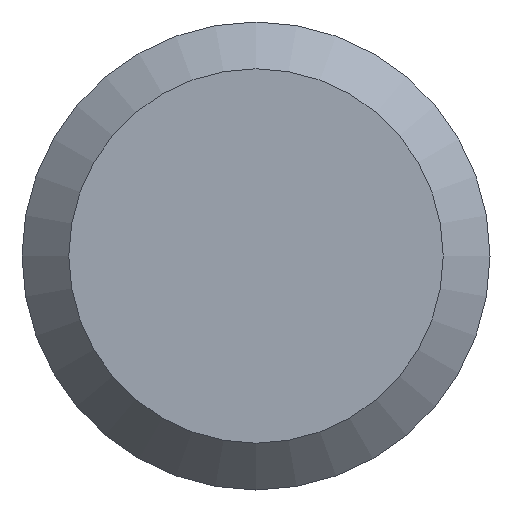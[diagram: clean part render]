
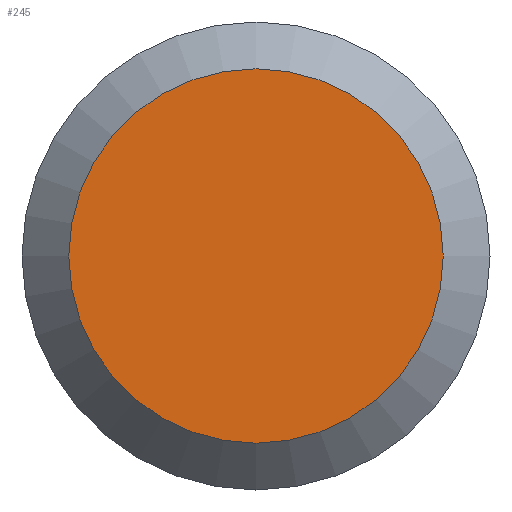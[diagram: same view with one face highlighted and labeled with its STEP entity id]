
A CAD part, left-side view. The second image highlights one B-rep face of the part: STEP entity #245.
In plain terms, the highlighted planar face has unit normal (-1, 0, 0).
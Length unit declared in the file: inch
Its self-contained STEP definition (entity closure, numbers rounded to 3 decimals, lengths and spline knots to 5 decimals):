
#16 = EDGE_LOOP ( 'NONE', ( #106 ) ) ;
#29 = PLANE ( 'NONE',  #241 ) ;
#57 = CARTESIAN_POINT ( 'NONE',  ( 0., 0., -0.1088 ) ) ;
#62 = CARTESIAN_POINT ( 'NONE',  ( 0., 0., 0. ) ) ;
#65 = DIRECTION ( 'NONE',  ( 0., 0., -1. ) ) ;
#106 = ORIENTED_EDGE ( 'NONE', *, *, #139, .T. ) ;
#129 = DIRECTION ( 'NONE',  ( -1., 0., 0. ) ) ;
#136 = DIRECTION ( 'NONE',  ( 1., 0., 0. ) ) ;
#139 = EDGE_CURVE ( 'NONE', #194, #194, #239, .T. ) ;
#171 = FACE_OUTER_BOUND ( 'NONE', #16, .T. ) ;
#173 = DIRECTION ( 'NONE',  ( 0., 0., -1. ) ) ;
#184 = AXIS2_PLACEMENT_3D ( 'NONE', #62, #129, #173 ) ;
#194 = VERTEX_POINT ( 'NONE', #57 ) ;
#239 = CIRCLE ( 'NONE', #184, 0.1088 ) ;
#241 = AXIS2_PLACEMENT_3D ( 'NONE', #249, #136, #65 ) ;
#245 = ADVANCED_FACE ( 'NONE', ( #171 ), #29, .F. ) ;
#249 = CARTESIAN_POINT ( 'NONE',  ( 0., 0.136, 0. ) ) ;
